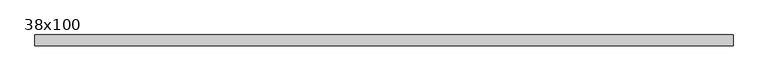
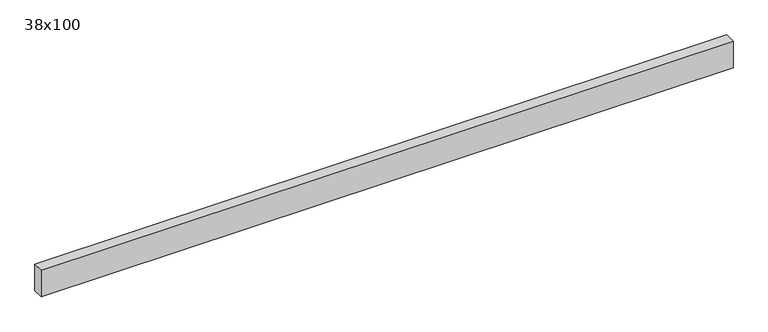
"""IFC4 building model written with IfcOpenShell, lengths in millimetres: beam geometry, Poutre - Bois de construction de dimensions courantes : 38x100."""

import ifcopenshell
import ifcopenshell.guid

model = None  # the IFC model being written
_history = None  # IfcOwnerHistory: only IFC2X3 demands one
_inside = {}  # id of a spatial element -> (the spatial element, [elements in it])
_under = {}  # id of a project, library or spatial element -> (it, [spatial elements below it])
_declared = {}  # id of a project -> (the project, [libraries it declares])
_typed = {}  # id of a type object -> (the type object, [elements of that type])
_made_of = {}  # id of a material, layer set ... -> (it, [elements and type objects made of it])


def new_model(schema):
    """Start an empty IFC model of exactly this schema.

    Asked for "IFC4X3", IfcOpenShell would pick the latest addendum, in which some entities
    have other attributes; the version numbers below select the first issue.
    IFC2X3 requires an IfcOwnerHistory on every rooted entity: one is made here for all.
    """
    global model, _history
    if schema == "IFC4X3":
        model = ifcopenshell.file(schema_version=(4, 3, 0, 0))
    else:
        model = ifcopenshell.file(schema=schema)
    _inside.clear()
    _under.clear()
    _declared.clear()
    _typed.clear()
    _made_of.clear()
    _history = None
    if model.schema == "IFC2X3":
        org = make("IfcOrganization", Name="unknown")
        user = make(
            "IfcPersonAndOrganization",
            ThePerson=make("IfcPerson", FamilyName="unknown"),
            TheOrganization=org,
        )
        app = make(
            "IfcApplication",
            ApplicationDeveloper=org,
            Version="unknown",
            ApplicationFullName="unknown",
            ApplicationIdentifier="unknown",
        )
        _history = make(
            "IfcOwnerHistory",
            OwningUser=user,
            OwningApplication=app,
            ChangeAction="ADDED",
            CreationDate=0,
        )
    return model


def make(cls, **values):
    """One entity of the class cls with the attributes given. An attribute that is None is left unset."""
    return model.create_entity(
        cls, **{name: value for name, value in values.items() if value is not None}
    )


def rooted(cls, **values):
    """An entity with a GlobalId (a new one), such as an element, a storey or a relation."""
    return make(cls, GlobalId=ifcopenshell.guid.new(), OwnerHistory=_history, **values)


def si_unit(unit_type, name, prefix=None):
    """IfcSIUnit, for example si_unit("LENGTHUNIT", "METRE", prefix="MILLI")."""
    return make("IfcSIUnit", UnitType=unit_type, Prefix=prefix, Name=name)


def assignment(units):
    """IfcUnitAssignment: the units of a project."""
    return None if units is None else make("IfcUnitAssignment", Units=units)


def point(xyz):
    """IfcCartesianPoint."""
    return None if xyz is None else make("IfcCartesianPoint", Coordinates=xyz)


def direction(xyz):
    """IfcDirection."""
    return None if xyz is None else make("IfcDirection", DirectionRatios=xyz)


def frame(location, z_axis=None, x_axis=None):
    """IfcAxis2Placement3D, a coordinate frame: its origin and axes. An axis left out is left unset."""
    return make(
        "IfcAxis2Placement3D",
        Location=point(location),
        Axis=direction(z_axis),
        RefDirection=direction(x_axis),
    )


def origin():
    """The frame at (0, 0, 0) with its axes left unset."""
    return frame((0.0, 0.0, 0.0))


def place(relative_to, where):
    """IfcLocalPlacement: puts the frame where relative to a parent placement (None: the world)."""
    return make(
        "IfcLocalPlacement", PlacementRelTo=relative_to, RelativePlacement=where
    )


def context(
    kind, dimensions, precision=None, world=None, true_north=None, identifier=None
):
    """IfcGeometricRepresentationContext, for example the 3D "Model" context."""
    return make(
        "IfcGeometricRepresentationContext",
        ContextIdentifier=identifier,
        ContextType=kind,
        CoordinateSpaceDimension=dimensions,
        Precision=precision,
        WorldCoordinateSystem=world,
        TrueNorth=true_north,
    )


def project(units=None, contexts=None):
    """IfcProject with its units and contexts."""
    return rooted(
        "IfcProject",
        Name="project",
        RepresentationContexts=contexts,
        UnitsInContext=assignment(units),
    )


def spatial(cls, under=None, at=None, **own):
    """A site, building, storey or space (cls), placed at a placement, below another one or the project."""
    s = rooted(cls, ObjectPlacement=at, **own)
    if under is not None:
        _under.setdefault(under.id(), (under, []))[1].append(s)
    return s


def polyline(points):
    """IfcPolyline through the points."""
    return make("IfcPolyline", Points=[point(p) for p in points])


def outline(outer, holes=None, kind="AREA"):
    """IfcArbitraryClosedProfileDef: a profile drawn as a closed curve; with holes, ...WithVoids."""
    if holes is None:
        return make("IfcArbitraryClosedProfileDef", ProfileType=kind, OuterCurve=outer)
    return make(
        "IfcArbitraryProfileDefWithVoids",
        ProfileType=kind,
        OuterCurve=outer,
        InnerCurves=holes,
    )


def extrude(swept, where, along, depth):
    """IfcExtrudedAreaSolid: the profile swept, set in the frame where, extruded along a direction by depth."""
    return make(
        "IfcExtrudedAreaSolid",
        SweptArea=swept,
        Position=where,
        ExtrudedDirection=direction(along),
        Depth=depth,
    )


def shape(context_of_items, identifier, shape_type, items):
    """IfcShapeRepresentation: the items that make up one representation, for example the "Body"."""
    return make(
        "IfcShapeRepresentation",
        ContextOfItems=context_of_items,
        RepresentationIdentifier=identifier,
        RepresentationType=shape_type,
        Items=items,
    )


def source(mapping_origin, context_of_items, identifier, shape_type, items):
    """IfcRepresentationMap: a shape defined once, which mapped items show again and again."""
    return make(
        "IfcRepresentationMap",
        MappingOrigin=mapping_origin,
        MappedRepresentation=shape(context_of_items, identifier, shape_type, items),
    )


def transform(
    local_origin,
    x_axis=None,
    y_axis=None,
    z_axis=None,
    scale=None,
    scale2=None,
    scale3=None,
    uniform=True,
):
    """IfcCartesianTransformationOperator3D, or its non-uniform kind. x_axis, y_axis, z_axis: its Axis1, 2, 3."""
    if uniform:
        return make(
            "IfcCartesianTransformationOperator3D",
            Axis1=direction(x_axis),
            Axis2=direction(y_axis),
            LocalOrigin=point(local_origin),
            Scale=scale,
            Axis3=direction(z_axis),
        )
    return make(
        "IfcCartesianTransformationOperator3DnonUniform",
        Axis1=direction(x_axis),
        Axis2=direction(y_axis),
        LocalOrigin=point(local_origin),
        Scale=scale,
        Axis3=direction(z_axis),
        Scale2=scale2,
        Scale3=scale3,
    )


def mapped(mapping_source, mapping_target):
    """IfcMappedItem: shows the shape of a source again, moved by a transform."""
    return make(
        "IfcMappedItem", MappingSource=mapping_source, MappingTarget=mapping_target
    )


def made_of(thing, what):
    """Note that an element or type object is made of a material, layer set ...; save() writes the relation."""
    if what is not None:
        _made_of.setdefault(what.id(), (what, []))[1].append(thing)
    return thing


def element(
    cls,
    number,
    at=None,
    inside=None,
    cuts=None,
    type_object=None,
    material=None,
    context=None,
    identifier="Body",
    shape_type=None,
    held_by="IfcProductDefinitionShape",
    body=None,
    shapes=None,
    **own,
):
    """One element of the class cls, such as IfcWall. Its Tag is "e" and its number.

    at: its placement. inside: the storey or other place that contains it. cuts: it is an
    opening in that element (IfcRelVoidsElement). A single representation is given by context,
    identifier, shape_type and body (its items); several are given by shapes. held_by: the class
    of the entity that holds the representations. save() writes the other relations.
    """
    e = rooted(cls, Tag="e%d" % number, ObjectPlacement=at, **own)
    if body is not None:
        shapes = [shape(context, identifier, shape_type, body)]
    if shapes is not None:
        e.Representation = make(held_by, Representations=shapes)
    if inside is not None:
        _inside.setdefault(inside.id(), (inside, []))[1].append(e)
    if cuts is not None:
        rooted(
            "IfcRelVoidsElement", RelatingBuildingElement=cuts, RelatedOpeningElement=e
        )
    if type_object is not None:
        _typed.setdefault(type_object.id(), (type_object, []))[1].append(e)
    return made_of(e, material)


def aggregate(whole, parts):
    """IfcRelAggregates: a whole, such as a stair, and the parts it consists of."""
    return rooted("IfcRelAggregates", RelatingObject=whole, RelatedObjects=parts)


def save(model, path):
    """Write the relations noted so far, then the file.

    IfcRelAggregates (storeys below a building ...), IfcRelContainedInSpatialStructure (elements
    in a storey), IfcRelDefinesByType, IfcRelAssociatesMaterial and IfcRelDeclares: one each for
    every whole, place, type object, material and project.
    """
    for whole, parts in _under.values():
        aggregate(whole, parts)
    for where, things in _inside.values():
        rooted(
            "IfcRelContainedInSpatialStructure",
            RelatedElements=things,
            RelatingStructure=where,
        )
    for kind, things in _typed.values():
        rooted("IfcRelDefinesByType", RelatedObjects=things, RelatingType=kind)
    for what, things in _made_of.values():
        rooted("IfcRelAssociatesMaterial", RelatedObjects=things, RelatingMaterial=what)
    for by, libraries in _declared.values():
        rooted("IfcRelDeclares", RelatingContext=by, RelatedDefinitions=libraries)
    model.write(path)


def beam_38x100_5cd047a6(model_context):
    return source(origin(), model_context, "Body", "SweptSolid", [
        extrude(outline(polyline([(1227.5, 19.05), (1227.5, -19.05), (-1227.5, -19.05), (-1227.5, 19.05), (1227.5, 19.05)])), frame((0.0, 0.0, -50.0), z_axis=(0.0, 0.0, 1.0), x_axis=(1.0, 0.0, 0.0)), (0.0, 0.0, 1.0), 100.0),
    ])


if __name__ == "__main__":
    model = new_model("IFC4")
    model_context = context("Model", 3, world=origin())
    ifc_project = project(units=[si_unit("LENGTHUNIT", "METRE", prefix="MILLI")], contexts=[model_context])
    site = spatial("IfcSite", under=ifc_project)
    building = spatial("IfcBuilding", under=site)
    placement = place(None, origin())
    beam_38x100_shape = beam_38x100_5cd047a6(model_context)
    element("IfcBeam", 1, ObjectType="Poutre - Bois de construction de dimensions courantes : 38x100", at=placement, inside=building, context=model_context, shape_type="MappedRepresentation", body=[
        mapped(beam_38x100_shape, transform((0.0, 0.0, 0.0), x_axis=(1.0, 0.0, 0.0), y_axis=(0.0, 1.0, 0.0), z_axis=(0.0, 0.0, 1.0))),
    ])
    save(model, "model.ifc")
